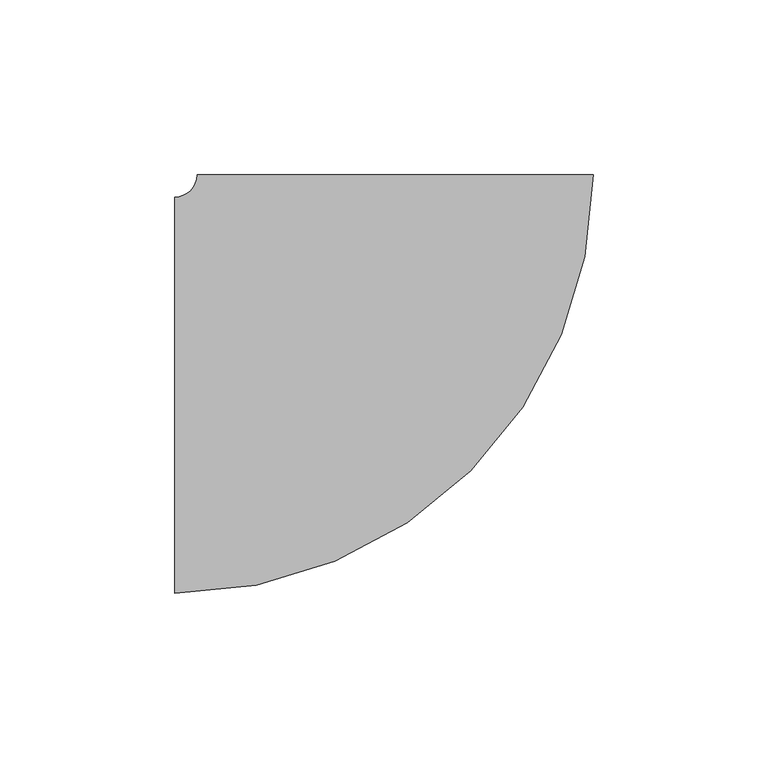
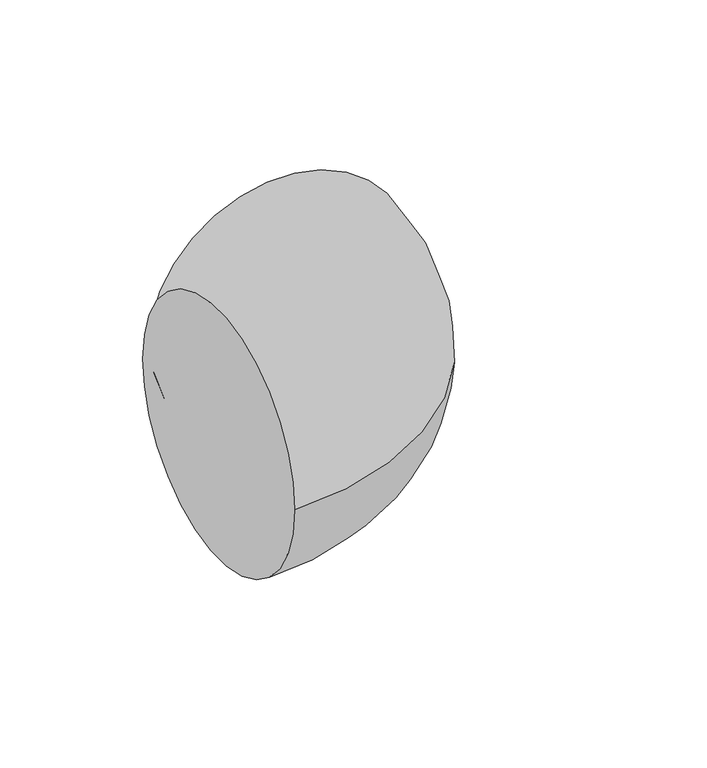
"""IFC4 building model written with IfcOpenShell, lengths in millimetres: pipe fitting geometry, M_Codo - Genérico : Estándar."""

from ifc_helpers import new_model, si_unit, point, frame, origin, place, context, project, spatial, circle_curve, ellipse_curve, trimmed, source, transform, mapped, element, save
from ifc_brep_helpers import plane_surface, revolved_surface, advanced_brep


def pipe_fitting_4a5a9629(model_context):
    return source(origin(), model_context, "Body", "AdvancedBrep", [
        advanced_brep(
        [(-62.9387649, -56.5875, 0.0), (-62.9387649, 56.5875, 0.0), (56.586235, 62.9399022, 0.0), (-56.5887649, 62.9376276, 0.0)],
        [
            (0, 1, circle_curve(frame((-62.9387649, 0.0, 0.0), z_axis=(-1.0, 0.0, 0.0), x_axis=(0.0, 1.0, 0.0)), 56.5875)),
            (1, 0, circle_curve(frame((-62.9387649, 0.0, 0.0), z_axis=(-1.0, 0.0, 0.0), x_axis=(0.0, 1.0, 0.0)), 56.5875)),
            (2, 3, circle_curve(frame((-0.001265, 62.9387649, 0.0), z_axis=(-2.0098119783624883e-05, 0.9999999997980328, 0.0), x_axis=(-0.9999999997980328, -2.0098119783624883e-05, 0.0)), 56.5875)),
            (3, 2, circle_curve(frame((-0.001265, 62.9387649, 0.0), z_axis=(-2.0098119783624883e-05, 0.9999999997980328, 0.0), x_axis=(-0.9999999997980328, -2.0098119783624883e-05, 0.0)), 56.5875)),
            (3, 1, circle_curve(frame((-62.9387649, 62.9375, 0.0), z_axis=(0.0, 0.0, -1.0), x_axis=(0.0, -1.0, 0.0)), 6.35)),
            (0, 2, circle_curve(frame((-62.9387649, 62.9375, 0.0), z_axis=(0.0, 0.0, 1.0), x_axis=(0.0, -1.0, 0.0)), 119.525)),
        ],
        [
            plane_surface(frame((-62.9387649, 0.0, 0.0), z_axis=(-1.0, 0.0, 0.0), x_axis=(0.0, 0.0, 1.0))),
            plane_surface(frame((-0.001265, 62.9387649, 0.0), z_axis=(-2.0098119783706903e-05, 0.9999999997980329, 0.0), x_axis=(0.0, 0.0, 1.0))),
            revolved_surface(trimmed(ellipse_curve(frame((-62.9387649, 0.0, 0.0), z_axis=(-1.0, 0.0, 0.0), x_axis=(0.0, 1.0, 0.0)), 56.5875, 56.5875), [point((-62.9387649, -56.5875, 0.0))], [point((-62.9387649, 56.5875, 0.0))], True, "CARTESIAN"), (-62.9387649, 62.9375, 0.0), (0.0, 0.0, 1.0)),
            revolved_surface(trimmed(ellipse_curve(frame((-62.9387649, 0.0, 0.0), z_axis=(-1.0, 0.0, 0.0), x_axis=(0.0, 1.0, 0.0)), 56.5875, 56.5875), [point((-62.9387649, 56.5875, 0.0))], [point((-62.9387649, -56.5875, 0.0))], True, "CARTESIAN"), (-62.9387649, 62.9375, 0.0), (0.0, 0.0, 1.0)),
        ],
        [
            (0, [[1, 2]]),
            (1, [[3, 4]]),
            (2, [[5, -1, 6, -4]]),
            (3, [[-6, -2, -5, -3]]),
        ],
    ),
    ])


if __name__ == "__main__":
    model = new_model("IFC4")
    model_context = context("Model", 3, world=origin())
    ifc_project = project(units=[si_unit("LENGTHUNIT", "METRE", prefix="MILLI")], contexts=[model_context])
    site = spatial("IfcSite", under=ifc_project)
    building = spatial("IfcBuilding", under=site)
    placement = place(None, origin())
    pipe_fitting_shape = pipe_fitting_4a5a9629(model_context)
    element("IfcPipeFitting", 1, ObjectType="M_Codo - Genérico : Estándar", at=placement, inside=building, context=model_context, shape_type="MappedRepresentation", body=[
        mapped(pipe_fitting_shape, transform((0.0, 0.0, 0.0), x_axis=(1.0, 0.0, 0.0), y_axis=(0.0, 1.0, 0.0), z_axis=(0.0, 0.0, 1.0))),
    ])
    save(model, "model.ifc")
